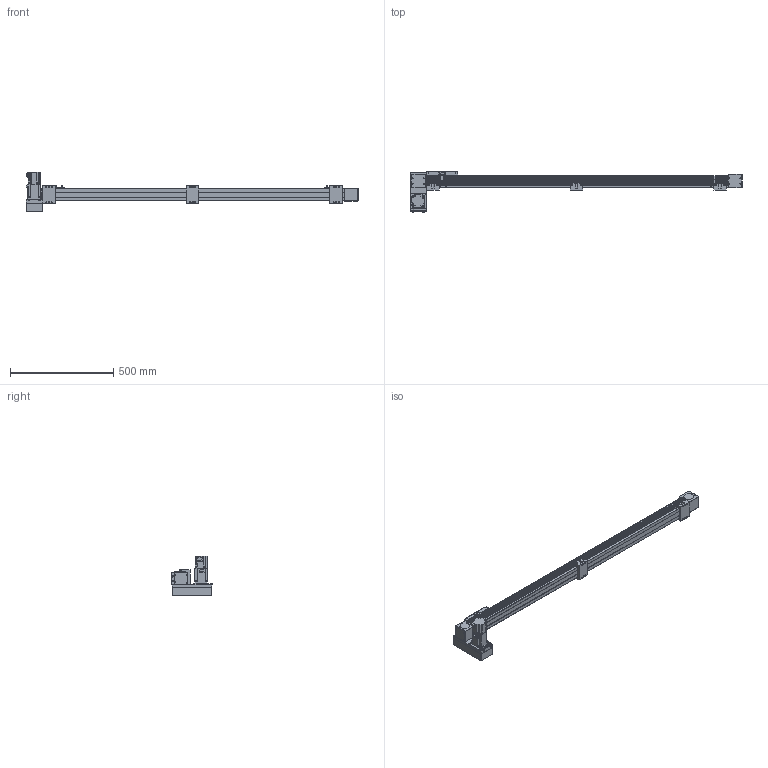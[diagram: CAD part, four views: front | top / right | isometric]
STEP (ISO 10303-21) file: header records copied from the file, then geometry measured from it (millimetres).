
FILE_DESCRIPTION(/* description */ ('STEP AP214'),/* implementation_level */ '2;1');
FILE_NAME(/* name */ 'SK60-P13-S1300-LD-T40-C1-N(0)',/* time_stamp */ '2023-04-06T04:38:55+02:00',/* author */ ('License CC BY-ND 4.0'),/* organization */ ('CADENAS'),/* preprocessor_version */ 'ST-DEVELOPER v19.3',/* originating_system */ 'PARTsolutions',/* authorisation */ ' ');
FILE_SCHEMA (('AUTOMOTIVE_DESIGN {1 0 10303 214 3 1 1}'));
Length unit declared in the file: millimetre
Products named in the file (10): SK60-P13-S1300-LD-T40-C1-N(0); PSC140-sensor; SK60-S450_seat; SK60-S450-BL-C1_slider; SK60_body3; SK60_body6; SK60-BL_body2; T40-p1; SK60-LD_fb; SK60-S1300-LD-C1_body
Assembly tree (17 placements, depth 2):
  SK60-P13-S1300-LD-T40-C1-N(0)
    PSC140-sensor  x3
    SK60-S450_seat  x3
    SK60-S450-BL-C1_slider
    SK60_body3  x3
    SK60_body6  x2
    SK60-BL_body2  x2
    T40-p1
    SK60-LD_fb
    SK60-S1300-LD-C1_body
Bounding box: 1605.5 x 199 x 189.7 mm (x, y, z)
Volume: 6642521 mm3; surface area: 816596.9 mm2
Topology: 17 solids, 17 shells, 854 faces, 2146 edges, 1413 vertices
Faces by surface type: plane 548, cylinder 278, cone 26, torus 2
Full cylindrical faces by diameter (mm): 2.8 x3, 3.3 x4, 4 x2, 4.5 x30, 4.6 x3, 4.917 x20, 5 x6, 5.478 x4, 5.5 x23, 6.5 x6, 7 x2, 8 x4, 8.5 x4, 9.988 x4, 10 x12, 14 x1, 47 x3, 50 x2
Entity records: 18663 total; most frequent: DIRECTION 3186, CARTESIAN_POINT 3151, ORIENTED_EDGE 2940, EDGE_CURVE 1470, AXIS2_PLACEMENT_3D 1069, LINE 1048, VECTOR 1048, VERTEX_POINT 1034
